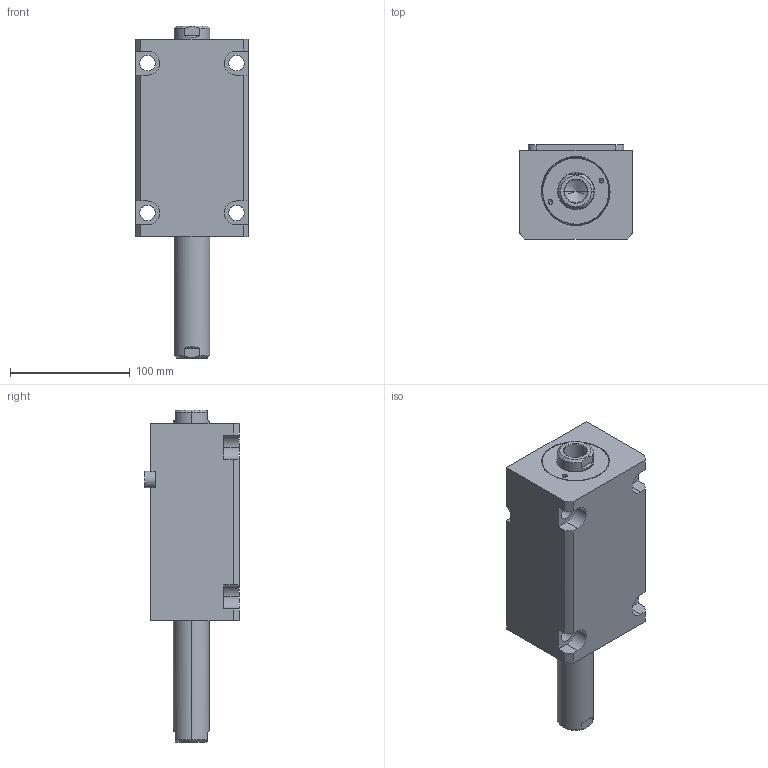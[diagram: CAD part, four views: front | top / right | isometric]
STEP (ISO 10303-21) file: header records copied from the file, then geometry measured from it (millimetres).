
FILE_DESCRIPTION (( 'STEP AP203' ), '1' );
FILE_NAME ('CHTB-LWM50-90N.STEP', '2018-05-22T06:37:50', ( '' ), ( '' ), 'SwSTEP 2.0', 'SolidWorks 2015', '' );
FILE_SCHEMA (( 'CONFIG_CONTROL_DESIGN' ));
Length unit declared in the file: millimetre
Products named in the file (4): CHTM-SDMA50QG; 掛极LWM50-90N; CHTB-LWM50-90N; 活塞杆LWM50-90N
Assembly tree (3 placements, depth 2):
  CHTB-LWM50-90N
    掛极LWM50-90N
    活塞杆LWM50-90N
    CHTM-SDMA50QG
Bounding box: 94 x 79 x 277 mm (x, y, z)
Volume: 1041307.4 mm3; surface area: 154717.2 mm2
Topology: 3 solids, 3 shells, 213 faces, 571 edges, 374 vertices
Faces by surface type: cylinder 104, plane 57, cone 22, torus 16, bspline 14
Entity records: 11569 total; most frequent: CARTESIAN_POINT 6050, ORIENTED_EDGE 1126, DIRECTION 1011, EDGE_CURVE 563, AXIS2_PLACEMENT_3D 396, VERTEX_POINT 374, EDGE_LOOP 247, LINE 219
